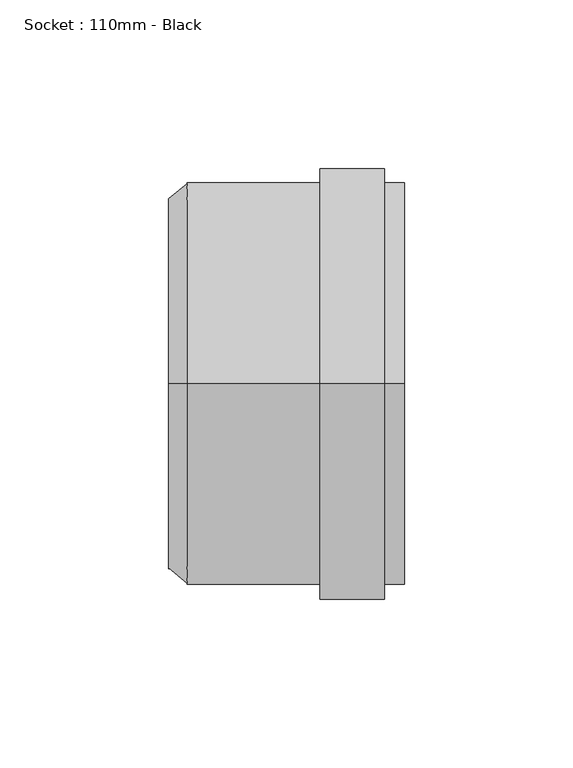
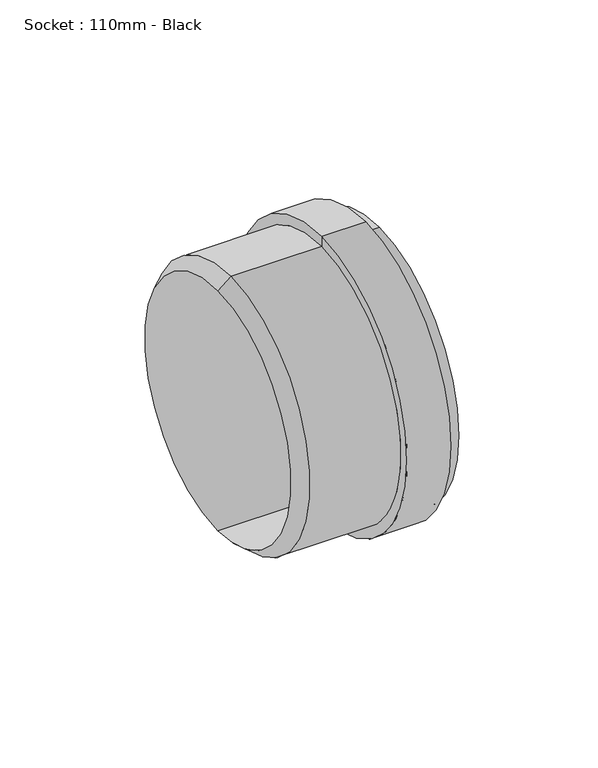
"""IFC4 building model written with IfcOpenShell, lengths in millimetres: pipe fitting geometry, Socket : 110mm - Black."""

from ifc_helpers import new_model, si_unit, frame, origin, place, context, project, spatial, polyline, circle_curve, source, transform, mapped, element, save
from ifc_brep_helpers import plane_surface, cylinder_surface, revolved_surface, advanced_brep


def socket_110mm_black_703dc98e(model_context):
    return source(origin(), model_context, "Body", "AdvancedBrep", [
        advanced_brep(
        [(-14.8253818, 0.0, -55.0), (-14.8253818, 0.0, 55.0), (-9.3253818, 0.0, 59.5), (-9.3253818, 0.0, -59.5), (55.1746182, 0.0, -55.0), (55.1746182, 0.0, 55.0), (55.1746182, 0.0, -59.5), (55.1746182, 0.0, 59.5), (49.1746182, 0.0, -59.5), (49.1746182, 0.0, 59.5), (49.1746182, 0.0, -64.0), (49.1746182, 0.0, 64.0), (30.1746182, 0.0, -64.0), (30.1746182, 0.0, 64.0), (30.1746182, 0.0, -59.5), (30.1746182, 0.0, 59.5)],
        [
            (0, 1, circle_curve(frame((-14.8253818, 0.0, 0.0), z_axis=(1.0, 0.0, 0.0), x_axis=(0.0, 0.0, 1.0)), 55.0)),
            (1, 2),
            (2, 3, circle_curve(frame((-9.3253818, 0.0, 0.0), z_axis=(-1.0, 0.0, 0.0), x_axis=(0.0, 0.0, 1.0)), 59.5)),
            (3, 0),
            (1, 0, circle_curve(frame((-14.8253818, 0.0, 0.0), z_axis=(1.0, 0.0, 0.0), x_axis=(0.0, 0.0, 1.0)), 55.0)),
            (3, 2, circle_curve(frame((-9.3253818, 0.0, 0.0), z_axis=(-1.0, 0.0, 0.0), x_axis=(0.0, 0.0, 1.0)), 59.5)),
            (4, 5, circle_curve(frame((55.1746182, 0.0, 0.0), z_axis=(1.0, 0.0, 0.0), x_axis=(0.0, 0.0, 1.0)), 55.0)),
            (5, 1),
            (0, 4),
            (5, 4, circle_curve(frame((55.1746182, 0.0, 0.0), z_axis=(1.0, 0.0, 0.0), x_axis=(0.0, 0.0, 1.0)), 55.0)),
            (6, 7, circle_curve(frame((55.1746182, 0.0, 0.0), z_axis=(1.0, 0.0, 0.0), x_axis=(0.0, 0.0, 1.0)), 59.5)),
            (7, 5),
            (4, 6),
            (7, 6, circle_curve(frame((55.1746182, 0.0, 0.0), z_axis=(1.0, 0.0, 0.0), x_axis=(0.0, 0.0, 1.0)), 59.5)),
            (8, 9, circle_curve(frame((49.1746182, 0.0, 0.0), z_axis=(1.0, 0.0, 0.0), x_axis=(0.0, 0.0, 1.0)), 59.5)),
            (9, 7),
            (6, 8),
            (9, 8, circle_curve(frame((49.1746182, 0.0, 0.0), z_axis=(1.0, 0.0, 0.0), x_axis=(0.0, 0.0, 1.0)), 59.5)),
            (10, 11, circle_curve(frame((49.1746182, 0.0, 0.0), z_axis=(1.0, 0.0, 0.0), x_axis=(0.0, 0.0, 1.0)), 64.0)),
            (11, 9),
            (8, 10),
            (11, 10, circle_curve(frame((49.1746182, 0.0, 0.0), z_axis=(1.0, 0.0, 0.0), x_axis=(0.0, 0.0, 1.0)), 64.0)),
            (12, 13, circle_curve(frame((30.1746182, 0.0, 0.0), z_axis=(1.0, 0.0, 0.0), x_axis=(0.0, 0.0, 1.0)), 64.0)),
            (13, 11),
            (10, 12),
            (13, 12, circle_curve(frame((30.1746182, 0.0, 0.0), z_axis=(1.0, 0.0, 0.0), x_axis=(0.0, 0.0, 1.0)), 64.0)),
            (14, 15, circle_curve(frame((30.1746182, 0.0, 0.0), z_axis=(1.0, 0.0, 0.0), x_axis=(0.0, 0.0, 1.0)), 59.5)),
            (15, 13),
            (12, 14),
            (15, 14, circle_curve(frame((30.1746182, 0.0, 0.0), z_axis=(1.0, 0.0, 0.0), x_axis=(0.0, 0.0, 1.0)), 59.5)),
            (2, 15),
            (14, 3),
        ],
        [
            revolved_surface(polyline([(-9.3253818, 0.0, 59.5), (-14.8253818, 0.0, 55.0)]), (-1506.5299635, 0.0, 0.0), (-1.0, 0.0, 0.0)),
            revolved_surface(polyline([(-14.82538180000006, 0.0, 55.0), (55.17461819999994, 0.0, 55.0)]), (-1506.5299635, 0.0, 0.0), (-1.0, 0.0, 0.0)),
            plane_surface(frame((55.1746182, 0.0, 0.0), z_axis=(1.0, 0.0, 0.0), x_axis=(0.0, 0.0, 1.0))),
            cylinder_surface(frame((-1506.5299635, 0.0, 0.0), z_axis=(-1.0, 0.0, 0.0), x_axis=(0.0, 0.0, 1.0)), 59.5),
            plane_surface(frame((49.1746182, 0.0, 0.0), z_axis=(1.0, 0.0, 0.0), x_axis=(0.0, 0.0, 1.0))),
            cylinder_surface(frame((-1506.5299635, 0.0, 0.0), z_axis=(-1.0, 0.0, 0.0), x_axis=(0.0, 0.0, 1.0)), 64.0),
            plane_surface(frame((30.1746182, 0.0, 0.0), z_axis=(-1.0, 0.0, 0.0), x_axis=(0.0, 0.0, 1.0))),
        ],
        [
            (0, [[1, 2, 3, 4]]),
            (0, [[5, -4, 6, -2]]),
            (1, [[7, 8, -1, 9]]),
            (1, [[10, -9, -5, -8]]),
            (2, [[11, 12, -7, 13]]),
            (2, [[14, -13, -10, -12]]),
            (3, [[15, 16, -11, 17]]),
            (3, [[18, -17, -14, -16]]),
            (4, [[19, 20, -15, 21]]),
            (4, [[22, -21, -18, -20]]),
            (5, [[23, 24, -19, 25]]),
            (5, [[26, -25, -22, -24]]),
            (6, [[27, 28, -23, 29]]),
            (6, [[30, -29, -26, -28]]),
            (3, [[-3, 31, -27, 32]]),
            (3, [[-6, -32, -30, -31]]),
        ],
    ),
    ])


if __name__ == "__main__":
    model = new_model("IFC4")
    model_context = context("Model", 3, world=origin())
    ifc_project = project(units=[si_unit("LENGTHUNIT", "METRE", prefix="MILLI")], contexts=[model_context])
    site = spatial("IfcSite", under=ifc_project)
    building = spatial("IfcBuilding", under=site)
    placement = place(None, origin())
    socket_110mm_black_shape = socket_110mm_black_703dc98e(model_context)
    element("IfcPipeFitting", 1, ObjectType="Socket : 110mm - Black", at=placement, inside=building, context=model_context, shape_type="MappedRepresentation", body=[
        mapped(socket_110mm_black_shape, transform((0.0, 0.0, 0.0), x_axis=(1.0, 0.0, 0.0), y_axis=(0.0, 1.0, 0.0), z_axis=(0.0, 0.0, 1.0))),
    ])
    save(model, "model.ifc")
